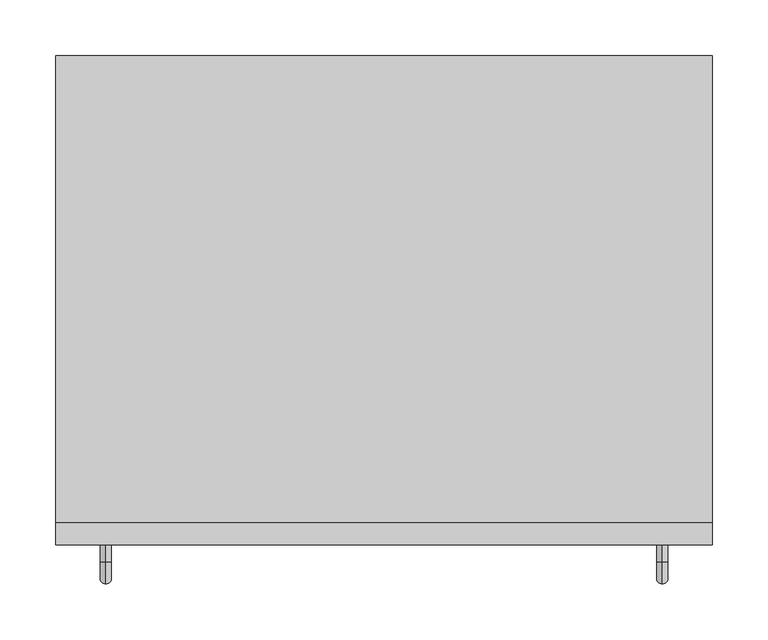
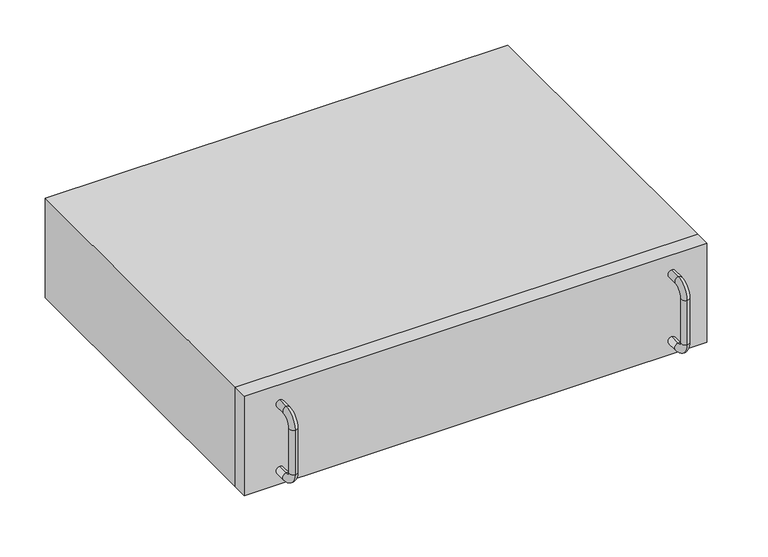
"""IFC4 building model written with IfcOpenShell, lengths in millimetres: proxy geometry, Силовой модуль_ПАТРИОТ-20Ш_СайберЭлектро : ПАТРИОТ-20М."""

from ifc_helpers import new_model, si_unit, point, frame, origin, origin_with_axes, place, context, project, spatial, polyline, circle_curve, ellipse_curve, trimmed, outline, extrude, source, transform, mapped, element, save
from ifc_brep_helpers import plane_surface, cylinder_surface, revolved_surface, advanced_brep


def electrical_equipment_ab1b914d(model_context):
    return source(origin(), model_context, "Body", "SolidModel", [
        extrude(outline(polyline([(295.0, -420.0), (295.0, -440.0), (-295.0, -440.0), (-295.0, -420.0), (295.0, -420.0)])), origin_with_axes(), (0.0, 0.0, 1.0), 134.0),
        extrude(outline(polyline([(295.0, 0.0), (295.0, -420.0), (-295.0, -420.0), (-295.0, 0.0), (295.0, 0.0)])), origin_with_axes(), (0.0, 0.0, 1.0), 134.0),
        advanced_brep(
        [(-250.0, -440.0, 114.0), (-250.0, -440.0, 104.0), (-250.0, -455.0, 114.0), (-250.0, -455.0, 104.0), (-250.0, -465.0, 94.0), (-250.0, -475.0, 94.0), (-250.0, -475.0, 34.0), (-250.0, -465.0, 34.0), (-250.0, -455.0, 24.0), (-250.0, -455.0, 14.0), (-250.0, -440.0, 14.0), (-250.0, -440.0, 24.0)],
        [
            (0, 1, circle_curve(frame((-250.0, -440.0, 109.0), z_axis=(0.0, 1.0, 0.0), x_axis=(0.0, 0.0, -1.0)), 5.0)),
            (1, 0, circle_curve(frame((-250.0, -440.0, 109.0), z_axis=(0.0, 1.0, 0.0), x_axis=(0.0, 0.0, -1.0)), 5.0)),
            (0, 2),
            (2, 3, circle_curve(frame((-250.0, -455.0, 109.0), z_axis=(0.0, 1.0, 0.0), x_axis=(0.0, 0.0, -1.0)), 5.0)),
            (3, 1),
            (3, 2, circle_curve(frame((-250.0, -455.0, 109.0), z_axis=(0.0, 1.0, 0.0), x_axis=(0.0, 0.0, -1.0)), 5.0)),
            (4, 3, circle_curve(frame((-250.0, -455.0, 94.0), z_axis=(-1.0, 0.0, 0.0), x_axis=(0.0, 0.0, 1.0)), 10.0)),
            (2, 5, circle_curve(frame((-250.0, -455.0, 94.0), z_axis=(1.0, 0.0, 0.0), x_axis=(0.0, 0.0, 1.0)), 20.0)),
            (5, 4, circle_curve(frame((-250.0, -470.0, 94.0), z_axis=(0.0, 0.0, 1.0), x_axis=(0.0, 1.0, 0.0)), 5.0)),
            (4, 5, circle_curve(frame((-250.0, -470.0, 94.0), z_axis=(0.0, 0.0, 1.0), x_axis=(0.0, 1.0, 0.0)), 5.0)),
            (5, 6),
            (6, 7, circle_curve(frame((-250.0, -470.0, 34.0), z_axis=(0.0, 0.0, 1.0), x_axis=(0.0, 1.0, 0.0)), 5.0)),
            (7, 4),
            (7, 6, circle_curve(frame((-250.0, -470.0, 34.0), z_axis=(0.0, 0.0, 1.0), x_axis=(0.0, 1.0, 0.0)), 5.0)),
            (8, 7, circle_curve(frame((-250.0, -455.0, 34.0), z_axis=(-1.0, 0.0, 0.0), x_axis=(0.0, -1.0, 0.0)), 10.0)),
            (6, 9, circle_curve(frame((-250.0, -455.0, 34.0), z_axis=(1.0, 0.0, 0.0), x_axis=(0.0, -1.0, 0.0)), 20.0)),
            (9, 8, circle_curve(frame((-250.0, -455.0, 19.0), z_axis=(0.0, -1.0, 0.0), x_axis=(0.0, 0.0, 1.0)), 5.0)),
            (8, 9, circle_curve(frame((-250.0, -455.0, 19.0), z_axis=(0.0, -1.0, 0.0), x_axis=(0.0, 0.0, 1.0)), 5.0)),
            (10, 11, circle_curve(frame((-250.0, -440.0, 19.0), z_axis=(0.0, 1.0, 0.0), x_axis=(0.0, 0.0, 1.0)), 5.0)),
            (11, 10, circle_curve(frame((-250.0, -440.0, 19.0), z_axis=(0.0, 1.0, 0.0), x_axis=(0.0, 0.0, 1.0)), 5.0)),
            (9, 10),
            (11, 8),
        ],
        [
            plane_surface(frame((0.0, -440.0, 109.0), z_axis=(0.0, 1.0, 0.0), x_axis=(1.0, 0.0, 0.0))),
            cylinder_surface(frame((-250.0, -440.0, 109.0), z_axis=(0.0, 1.0, 0.0), x_axis=(0.0, 0.0, -1.0)), 5.0),
            revolved_surface(trimmed(ellipse_curve(frame((-250.0, -455.0, 109.0), z_axis=(0.0, 1.0, 0.0), x_axis=(0.0, 0.0, -1.0)), 5.0, 5.0), [point((-250.0, -455.0, 114.0))], [point((-250.0, -455.0, 104.0))], True, "CARTESIAN"), (0.0, -455.0, 94.0), (1.0, 0.0, 0.0)),
            revolved_surface(trimmed(ellipse_curve(frame((-250.0, -455.0, 109.0), z_axis=(0.0, 1.0, 0.0), x_axis=(0.0, 0.0, -1.0)), 5.0, 5.0), [point((-250.0, -455.0, 104.0))], [point((-250.0, -455.0, 114.0))], True, "CARTESIAN"), (0.0, -455.0, 94.0), (1.0, 0.0, 0.0)),
            cylinder_surface(frame((-250.0, -470.0, 94.0), z_axis=(0.0, 0.0, 1.0), x_axis=(0.0, 1.0, 0.0)), 5.0),
            revolved_surface(trimmed(ellipse_curve(frame((-250.0, -470.0, 34.0), z_axis=(0.0, 0.0, 1.0), x_axis=(0.0, 1.0, 0.0)), 5.0, 5.0), [point((-250.0, -475.0, 34.0))], [point((-250.0, -465.0, 34.0))], True, "CARTESIAN"), (0.0, -455.0, 34.0), (1.0, 0.0, 0.0)),
            revolved_surface(trimmed(ellipse_curve(frame((-250.0, -470.0, 34.0), z_axis=(0.0, 0.0, 1.0), x_axis=(0.0, 1.0, 0.0)), 5.0, 5.0), [point((-250.0, -465.0, 34.0))], [point((-250.0, -475.0, 34.0))], True, "CARTESIAN"), (0.0, -455.0, 34.0), (1.0, 0.0, 0.0)),
            plane_surface(frame((0.0, -440.0, 19.0), z_axis=(0.0, 1.0, 0.0), x_axis=(1.0, 0.0, 0.0))),
            cylinder_surface(frame((-250.0, -455.0, 19.0), z_axis=(0.0, -1.0, 0.0), x_axis=(0.0, 0.0, 1.0)), 5.0),
        ],
        [
            (0, [[1, 2]]),
            (1, [[-1, 3, 4, 5]]),
            (1, [[-2, -5, 6, -3]]),
            (2, [[7, -4, 8, 9]]),
            (3, [[-8, -6, -7, 10]]),
            (4, [[-9, 11, 12, 13]]),
            (4, [[-10, -13, 14, -11]]),
            (5, [[15, -12, 16, 17]]),
            (6, [[-16, -14, -15, 18]]),
            (7, [[19, 20]]),
            (8, [[-17, 21, -20, 22]]),
            (8, [[-18, -22, -19, -21]]),
        ],
    ),
        advanced_brep(
        [(250.0, -440.0, 114.0), (250.0, -440.0, 104.0), (250.0, -455.0, 114.0), (250.0, -455.0, 104.0), (250.0, -465.0, 94.0), (250.0, -475.0, 94.0), (250.0, -475.0, 34.0), (250.0, -465.0, 34.0), (250.0, -455.0, 24.0), (250.0, -455.0, 14.0), (250.0, -440.0, 14.0), (250.0, -440.0, 24.0)],
        [
            (0, 1, circle_curve(frame((250.0, -440.0, 109.0), z_axis=(0.0, 1.0, 0.0), x_axis=(0.0, 0.0, -1.0)), 5.0)),
            (1, 0, circle_curve(frame((250.0, -440.0, 109.0), z_axis=(0.0, 1.0, 0.0), x_axis=(0.0, 0.0, -1.0)), 5.0)),
            (0, 2),
            (2, 3, circle_curve(frame((250.0, -455.0, 109.0), z_axis=(0.0, 1.0, 0.0), x_axis=(0.0, 0.0, -1.0)), 5.0)),
            (3, 1),
            (3, 2, circle_curve(frame((250.0, -455.0, 109.0), z_axis=(0.0, 1.0, 0.0), x_axis=(0.0, 0.0, -1.0)), 5.0)),
            (4, 3, circle_curve(frame((250.0, -455.0, 94.0), z_axis=(-1.0, 0.0, 0.0), x_axis=(0.0, 0.0, 1.0)), 10.0)),
            (2, 5, circle_curve(frame((250.0, -455.0, 94.0), z_axis=(1.0, 0.0, 0.0), x_axis=(0.0, 0.0, 1.0)), 20.0)),
            (5, 4, circle_curve(frame((250.0, -470.0, 94.0), z_axis=(0.0, 0.0, 1.0), x_axis=(0.0, 1.0, 0.0)), 5.0)),
            (4, 5, circle_curve(frame((250.0, -470.0, 94.0), z_axis=(0.0, 0.0, 1.0), x_axis=(0.0, 1.0, 0.0)), 5.0)),
            (5, 6),
            (6, 7, circle_curve(frame((250.0, -470.0, 34.0), z_axis=(0.0, 0.0, 1.0), x_axis=(0.0, 1.0, 0.0)), 5.0)),
            (7, 4),
            (7, 6, circle_curve(frame((250.0, -470.0, 34.0), z_axis=(0.0, 0.0, 1.0), x_axis=(0.0, 1.0, 0.0)), 5.0)),
            (8, 7, circle_curve(frame((250.0, -455.0, 34.0), z_axis=(-1.0, 0.0, 0.0), x_axis=(0.0, -1.0, 0.0)), 10.0)),
            (6, 9, circle_curve(frame((250.0, -455.0, 34.0), z_axis=(1.0, 0.0, 0.0), x_axis=(0.0, -1.0, 0.0)), 20.0)),
            (9, 8, circle_curve(frame((250.0, -455.0, 19.0), z_axis=(0.0, -1.0, 0.0), x_axis=(0.0, 0.0, 1.0)), 5.0)),
            (8, 9, circle_curve(frame((250.0, -455.0, 19.0), z_axis=(0.0, -1.0, 0.0), x_axis=(0.0, 0.0, 1.0)), 5.0)),
            (10, 11, circle_curve(frame((250.0, -440.0, 19.0), z_axis=(0.0, 1.0, 0.0), x_axis=(0.0, 0.0, 1.0)), 5.0)),
            (11, 10, circle_curve(frame((250.0, -440.0, 19.0), z_axis=(0.0, 1.0, 0.0), x_axis=(0.0, 0.0, 1.0)), 5.0)),
            (9, 10),
            (11, 8),
        ],
        [
            plane_surface(frame((0.0, -440.0, 109.0), z_axis=(0.0, 1.0, 0.0), x_axis=(1.0, 0.0, 0.0))),
            cylinder_surface(frame((250.0, -440.0, 109.0), z_axis=(0.0, 1.0, 0.0), x_axis=(0.0, 0.0, -1.0)), 5.0),
            revolved_surface(trimmed(ellipse_curve(frame((250.0, -455.0, 109.0), z_axis=(0.0, 1.0, 0.0), x_axis=(0.0, 0.0, -1.0)), 5.0, 5.0), [point((250.0, -455.0, 114.0))], [point((250.0, -455.0, 104.0))], True, "CARTESIAN"), (0.0, -455.0, 94.0), (1.0, 0.0, 0.0)),
            revolved_surface(trimmed(ellipse_curve(frame((250.0, -455.0, 109.0), z_axis=(0.0, 1.0, 0.0), x_axis=(0.0, 0.0, -1.0)), 5.0, 5.0), [point((250.0, -455.0, 104.0))], [point((250.0, -455.0, 114.0))], True, "CARTESIAN"), (0.0, -455.0, 94.0), (1.0, 0.0, 0.0)),
            cylinder_surface(frame((250.0, -470.0, 94.0), z_axis=(0.0, 0.0, 1.0), x_axis=(0.0, 1.0, 0.0)), 5.0),
            revolved_surface(trimmed(ellipse_curve(frame((250.0, -470.0, 34.0), z_axis=(0.0, 0.0, 1.0), x_axis=(0.0, 1.0, 0.0)), 5.0, 5.0), [point((250.0, -475.0, 34.0))], [point((250.0, -465.0, 34.0))], True, "CARTESIAN"), (0.0, -455.0, 34.0), (1.0, 0.0, 0.0)),
            revolved_surface(trimmed(ellipse_curve(frame((250.0, -470.0, 34.0), z_axis=(0.0, 0.0, 1.0), x_axis=(0.0, 1.0, 0.0)), 5.0, 5.0), [point((250.0, -465.0, 34.0))], [point((250.0, -475.0, 34.0))], True, "CARTESIAN"), (0.0, -455.0, 34.0), (1.0, 0.0, 0.0)),
            plane_surface(frame((0.0, -440.0, 19.0), z_axis=(0.0, 1.0, 0.0), x_axis=(1.0, 0.0, 0.0))),
            cylinder_surface(frame((250.0, -455.0, 19.0), z_axis=(0.0, -1.0, 0.0), x_axis=(0.0, 0.0, 1.0)), 5.0),
        ],
        [
            (0, [[1, 2]]),
            (1, [[-1, 3, 4, 5]]),
            (1, [[-2, -5, 6, -3]]),
            (2, [[7, -4, 8, 9]]),
            (3, [[-8, -6, -7, 10]]),
            (4, [[-9, 11, 12, 13]]),
            (4, [[-10, -13, 14, -11]]),
            (5, [[15, -12, 16, 17]]),
            (6, [[-16, -14, -15, 18]]),
            (7, [[19, 20]]),
            (8, [[-17, 21, -20, 22]]),
            (8, [[-18, -22, -19, -21]]),
        ],
    ),
    ])


if __name__ == "__main__":
    model = new_model("IFC4")
    model_context = context("Model", 3, world=origin())
    ifc_project = project(units=[si_unit("LENGTHUNIT", "METRE", prefix="MILLI")], contexts=[model_context])
    site = spatial("IfcSite", under=ifc_project)
    building = spatial("IfcBuilding", under=site)
    placement = place(None, origin())
    electrical_equipment_shape = electrical_equipment_ab1b914d(model_context)
    element("IfcBuildingElementProxy", 1, Name="Силовой модуль_ПАТРИОТ-20Ш_СайберЭлектро : ПАТРИОТ-20М", ObjectType="Силовой модуль_ПАТРИОТ-20Ш_СайберЭлектро : ПАТРИОТ-20М", at=placement, inside=building, context=model_context, shape_type="MappedRepresentation", body=[
        mapped(electrical_equipment_shape, transform((0.0, 0.0, 0.0), x_axis=(1.0, 0.0, 0.0), y_axis=(0.0, 1.0, 0.0), z_axis=(0.0, 0.0, 1.0))),
    ])
    save(model, "model.ifc")
